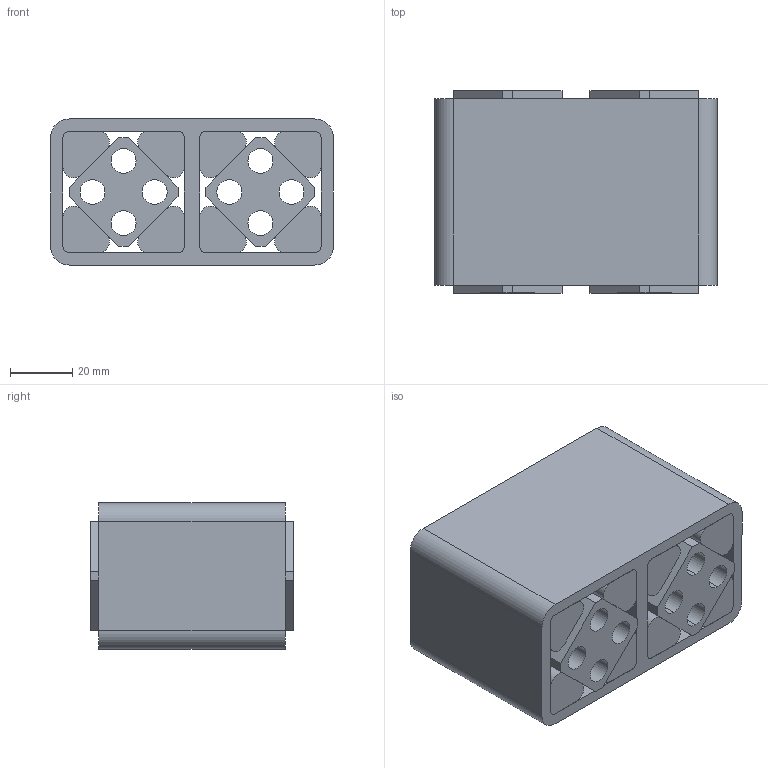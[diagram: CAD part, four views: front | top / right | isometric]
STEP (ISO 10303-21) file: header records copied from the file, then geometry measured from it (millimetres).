
FILE_DESCRIPTION((''),'2;1');
FILE_NAME('\\rostaofc\data\uw\save\daten_f\Normprogramm 3D\Gummifederelemente\DO-A27x60_01041008.stp','2004-09-28T07:33:55',('uw'),(''),'Autodesk Inventor 8','Autodesk Inventor 8','');
FILE_SCHEMA(('AUTOMOTIVE_DESIGN { 1 0 10303 214 1 1 1 1 }'));
Length unit declared in the file: millimetre
Products named in the file (4): ROSTA-Gummifederelement DO-A27x60; 4_4_3760-003; 4_4_3760-004; 4_4_3760-005
Assembly tree (11 placements, depth 2):
  ROSTA-Gummifederelement DO-A27x60
    4_4_3760-003
    4_4_3760-004  x2
    4_4_3760-005  x8
Bounding box: 91 x 65 x 47 mm (x, y, z)
Volume: 220143.3 mm3; surface area: 91745.8 mm2
Topology: 11 solids, 11 shells, 126 faces, 312 edges, 208 vertices
Faces by surface type: plane 74, cylinder 52
Entity records: 1819 total; most frequent: DIRECTION 318, CARTESIAN_POINT 297, ORIENTED_EDGE 276, EDGE_CURVE 138, AXIS2_PLACEMENT_3D 113, VERTEX_POINT 92, VECTOR 92, LINE 92
